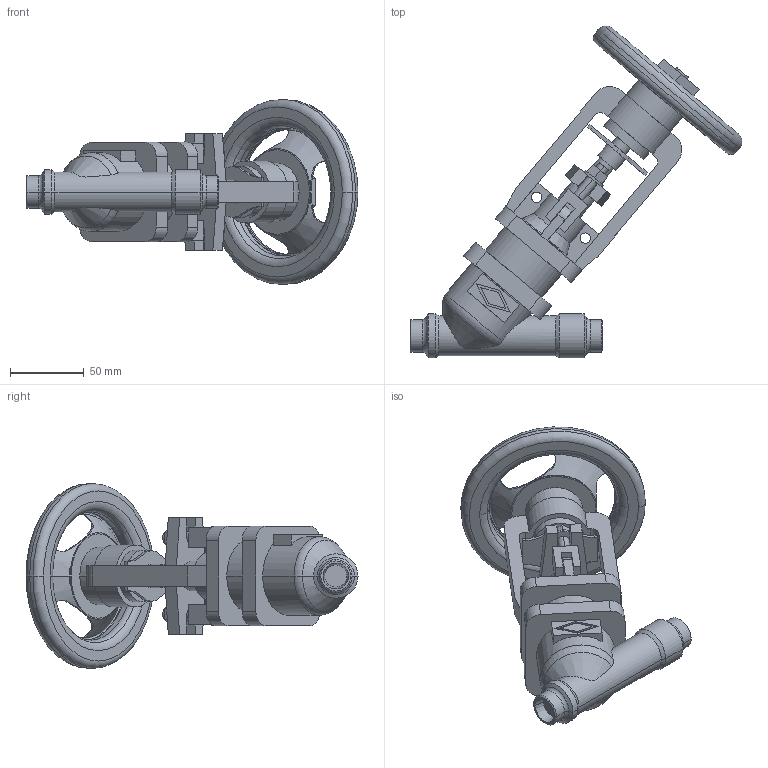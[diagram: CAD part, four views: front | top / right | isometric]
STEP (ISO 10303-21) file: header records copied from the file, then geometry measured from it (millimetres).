
FILE_DESCRIPTION(('OneSpaceDesigner STEP Export'),'2;1');
FILE_NAME('c000004346.stp','2010-05-10T10:56:15',(''),(''),'OneSpace Designer STEP processor for AP214 (Solid Model)','OneSpace Modeling 15.50B 03-Nov-2007 (C) CoCreate Software GmbH','');
FILE_SCHEMA(('AUTOMOTIVE_DESIGN { 1 0 10303 214 1 1 1 1 }'));
Length unit declared in the file: millimetre
Products named in the file (1): 1
Bounding box: 224.51 x 224.52 x 125 mm (x, y, z)
Volume: 545716.3 mm3; surface area: 106066.1 mm2
Topology: 1 solids, 1 shells, 283 faces, 748 edges, 481 vertices
Faces by surface type: plane 136, cylinder 89, torus 30, cone 28
Entity records: 10999 total; most frequent: CARTESIAN_POINT 2135, ORIENTED_EDGE 1480, DIRECTION 1235, EDGE_CURVE 740, VERTEX_POINT 477, AXIS2_PLACEMENT_3D 412, VECTOR 411, LINE 411
